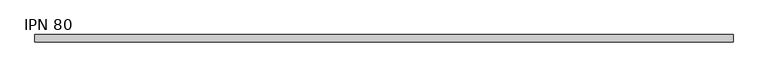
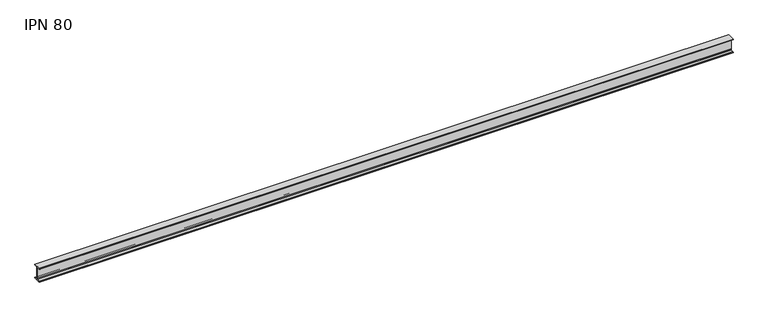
"""IFC4 building model written with IfcOpenShell, lengths in millimetres: beam geometry, IPN - Secciones en I con alas cónicas : IPN 80."""

from ifc_helpers import new_model, si_unit, point, frame, frame_2d, origin, place, context, project, spatial, polyline, circle_curve, trimmed, segment, composite_curve, outline, extrude, source, transform, mapped, element, save


def ipn_80_816be43c(model_context):
    return source(origin(), model_context, "Body", "SweptSolid", [
        extrude(outline(composite_curve([segment(polyline([(21.0, 40.0), (21.0, 37.5704306)]), True, "CONTINUOUS"), segment(trimmed(circle_curve(frame_2d((18.7, 37.5704306)), 2.3), [point((21.0, 37.5704306))], [point((19.01889, 35.2926446))], False, "CARTESIAN"), True, "CONTINUOUS"), segment(polyline([(19.01889, 35.2926446), (5.3092734, 33.3732983)]), True, "CONTINUOUS"), segment(trimmed(circle_curve(frame_2d((5.85, 29.5109655)), 3.9), [point((5.3092734, 33.3732983))], [point((1.95, 29.5109655))], True, "CARTESIAN"), True, "CONTINUOUS"), segment(polyline([(1.95, 29.5109655), (1.95, -29.5109655)]), True, "CONTINUOUS"), segment(trimmed(circle_curve(frame_2d((5.85, -29.5109655)), 3.9), [point((1.95, -29.5109655))], [point((5.3092734, -33.3732983))], True, "CARTESIAN"), True, "CONTINUOUS"), segment(polyline([(5.3092734, -33.3732983), (19.01889, -35.2926446)]), True, "CONTINUOUS"), segment(trimmed(circle_curve(frame_2d((18.7, -37.5704306)), 2.3), [point((19.01889, -35.2926446))], [point((21.0, -37.5704306))], False, "CARTESIAN"), True, "CONTINUOUS"), segment(polyline([(21.0, -37.5704306), (21.0, -40.0), (-21.0, -40.0), (-21.0, -37.5704306)]), True, "CONTINUOUS"), segment(trimmed(circle_curve(frame_2d((-18.7, -37.5704306)), 2.3), [point((-21.0, -37.5704306))], [point((-19.01889, -35.2926446))], False, "CARTESIAN"), True, "CONTINUOUS"), segment(polyline([(-19.01889, -35.2926446), (-5.3092734, -33.3732983)]), True, "CONTINUOUS"), segment(trimmed(circle_curve(frame_2d((-5.85, -29.5109655)), 3.9), [point((-5.3092734, -33.3732983))], [point((-1.95, -29.5109655))], True, "CARTESIAN"), True, "CONTINUOUS"), segment(polyline([(-1.95, -29.5109655), (-1.95, 29.5109655)]), True, "CONTINUOUS"), segment(trimmed(circle_curve(frame_2d((-5.85, 29.5109655)), 3.9), [point((-1.95, 29.5109655))], [point((-5.3092734, 33.3732983))], True, "CARTESIAN"), True, "CONTINUOUS"), segment(polyline([(-5.3092734, 33.3732983), (-19.01889, 35.2926446)]), True, "CONTINUOUS"), segment(trimmed(circle_curve(frame_2d((-18.7, 37.5704306)), 2.3), [point((-19.01889, 35.2926446))], [point((-21.0, 37.5704306))], False, "CARTESIAN"), True, "CONTINUOUS"), segment(polyline([(-21.0, 37.5704306), (-21.0, 40.0), (21.0, 40.0)]), True, "CONTINUOUS")], self_intersect=False)), frame((-1943.85, 0.0, 0.0), z_axis=(1.0, 0.0, 0.0), x_axis=(0.0, 1.0, 0.0)), (0.0, 0.0, 1.0), 3873.85),
    ])


if __name__ == "__main__":
    model = new_model("IFC4")
    model_context = context("Model", 3, world=origin())
    ifc_project = project(units=[si_unit("LENGTHUNIT", "METRE", prefix="MILLI")], contexts=[model_context])
    site = spatial("IfcSite", under=ifc_project)
    building = spatial("IfcBuilding", under=site)
    placement = place(None, origin())
    ipn_80_shape = ipn_80_816be43c(model_context)
    element("IfcBeam", 1, ObjectType="IPN - Secciones en I con alas cónicas : IPN 80", at=placement, inside=building, context=model_context, shape_type="MappedRepresentation", body=[
        mapped(ipn_80_shape, transform((0.0, 0.0, 0.0), x_axis=(1.0, 0.0, 0.0), y_axis=(0.0, 1.0, 0.0), z_axis=(0.0, 0.0, 1.0))),
    ])
    save(model, "model.ifc")
